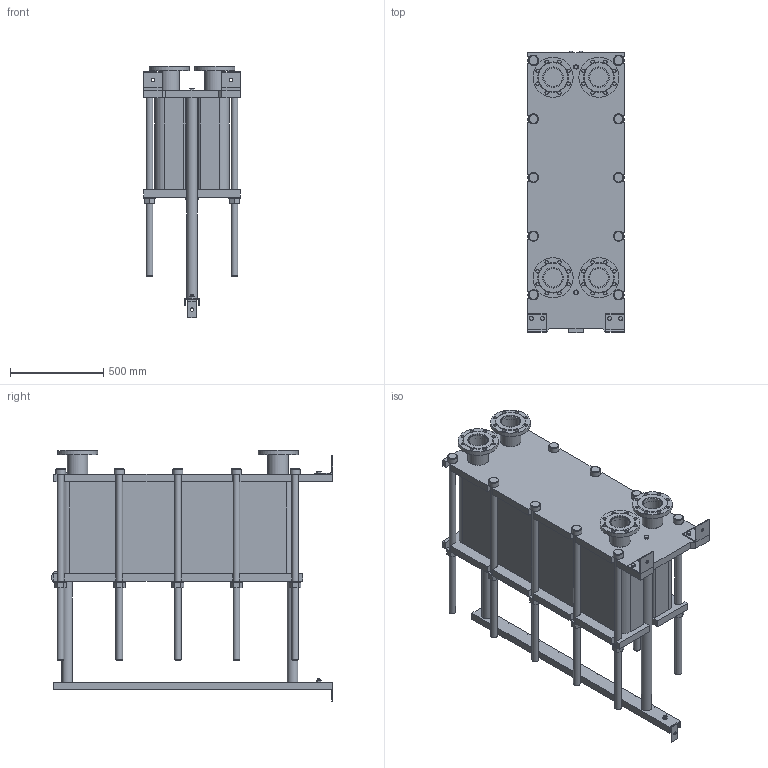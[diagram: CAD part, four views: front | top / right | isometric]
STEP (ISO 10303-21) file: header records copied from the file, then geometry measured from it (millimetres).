
FILE_DESCRIPTION(/* description */ (''),/* implementation_level */ '2;1');
FILE_NAME(/* name */ 'C:\Users\zhuro\Desktop\ENCO\TO\ЭН-04\ЭН-0,5-04-143-1.stp',/* time_stamp */ '2022-06-06T10:58:12+03:00',/* author */ ('zhuro'),/* organization */ (''),/* preprocessor_version */ 'ST-DEVELOPER v18.1',/* originating_system */ 'Autodesk Inventor 2022',/* authorisation */ '');
FILE_SCHEMA (('AUTOMOTIVE_DESIGN { 1 0 10303 214 3 1 1 }'));
Length unit declared in the file: millimetre
Products named in the file (1): ЭН-0,5-04-143-1
Bounding box: 520 x 1510 x 1351.5 mm (x, y, z)
Volume: 320075263.5 mm3; surface area: 9300836 mm2
Topology: 45 solids, 45 shells, 668 faces, 1611 edges, 1048 vertices
Faces by surface type: plane 457, cylinder 166, cone 39, torus 6
Full cylindrical faces by diameter (mm): 8 x4, 10 x2, 16 x8, 18 x35, 36 x25, 40 x2, 42 x1, 45 x4, 54 x10, 57 x2, 60 x10, 68 x2, 100 x4, 110 x8, 215 x4
Entity records: 23607 total; most frequent: CARTESIAN_POINT 7348, DIRECTION 3371, ORIENTED_EDGE 3142, EDGE_CURVE 1571, AXIS2_PLACEMENT_3D 1199, VERTEX_POINT 1044, LINE 973, VECTOR 973
